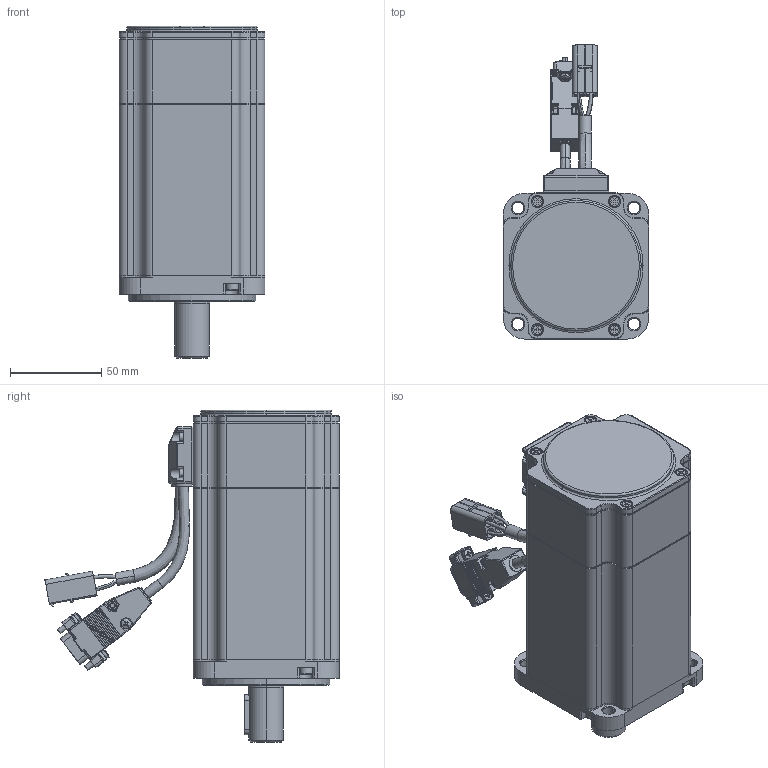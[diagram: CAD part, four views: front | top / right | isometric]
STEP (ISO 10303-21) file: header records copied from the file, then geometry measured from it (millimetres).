
FILE_DESCRIPTION (( 'STEP AP203' ), '1' );
FILE_NAME ('L80-753026XNL（SMH80-753026XNL-XX）.STEP', '2016-06-08T01:06:05', ( '微软用户' ), ( '微软中国' ), 'SwSTEP 2.0', 'SolidWorks 2011', '' );
FILE_SCHEMA (( 'CONFIG_CONTROL_DESIGN' ));
Products named in the file (21): L80-753026XNL（SMH80-753026XNL-XX）; 嘎殤蚐猾; hexagon socket head cap screws gb_GB_FASTENER_SCREWS_HSHCS M2.5X10-N; 竘盄碟; 竘盄菜; circlips for holes--type a gb_GB_CONNECTING_PIECE_RING_RRH 42; 瑩; cross recessed countersunk head screws gb2_GB_CROSS_SCREWS_TYPE10 M3X8-6.35-H1-N; hexagon socket head cap screws gb_GB_FASTENER_SCREWS_HSHCS M4X35-N; 鎢攫欶綴裔; 躇猾菜; 鎢攫欶; 蛌赽軞傖_Default; deep groove ball bearings gb_Rolling bearings 6004 GB 276-94; 蛌赽郪璃_Default; 蛌粣; 隅赽軞傖_Default; hexagon socket head cap screws gb_GB_FASTENER_SCREWS_HSHCS M4X16-N; ヶ傷裔И璃; 儂褲; ヶ傷裔
Assembly tree (33 placements, depth 4):
  L80-753026XNL（SMH80-753026XNL-XX）
    嘎殤蚐猾
    hexagon socket head cap screws gb_GB_FASTENER_SCREWS_HSHCS M2.5X10-N  x4
    cross recessed countersunk head screws gb2_GB_CROSS_SCREWS_TYPE10 M3X8-6.35-H1-N  x4
    隅赽軞傖_Default
      ヶ傷裔
      hexagon socket head cap screws gb_GB_FASTENER_SCREWS_HSHCS M4X16-N  x4
      ヶ傷裔И璃
      儂褲
    竘盄菜
    circlips for holes--type a gb_GB_CONNECTING_PIECE_RING_RRH 42
    瑩
    hexagon socket head cap screws gb_GB_FASTENER_SCREWS_HSHCS M4X35-N  x4
    鎢攫欶綴裔
    竘盄碟
    躇猾菜  x2
    鎢攫欶
    蛌赽軞傖_Default
      deep groove ball bearings gb_Rolling bearings 6004 GB 276-94
      蛌赽郪璃_Default
        蛌粣
Bounding box: 80 x 161.18 x 182 mm (x, y, z)
Volume: 292567.2 mm3; surface area: 175508.1 mm2
Topology: 47 solids, 47 shells, 2440 faces, 6413 edges, 3945 vertices
Faces by surface type: cylinder 999, plane 905, cone 165, sphere 125, torus 124, bspline 122
Entity records: 71971 total; most frequent: CARTESIAN_POINT 18850, DIRECTION 10737, ORIENTED_EDGE 10600, EDGE_CURVE 5300, AXIS2_PLACEMENT_3D 4079, VERTEX_POINT 3342, VECTOR 2579, LINE 2579
